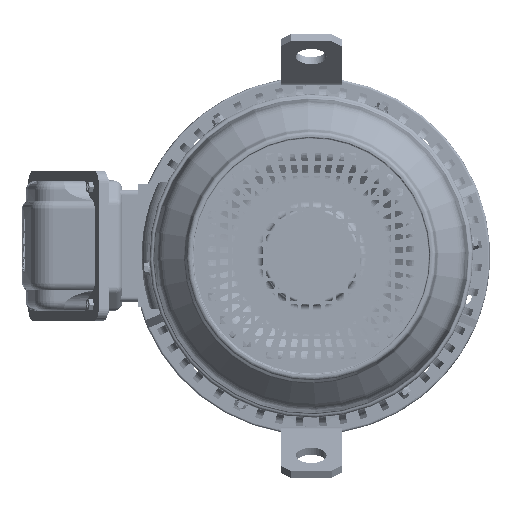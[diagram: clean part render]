
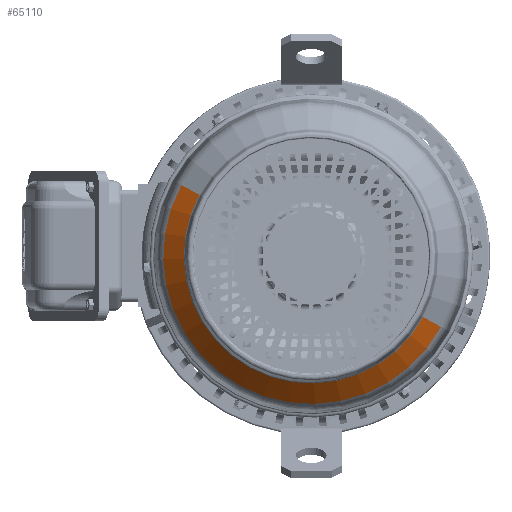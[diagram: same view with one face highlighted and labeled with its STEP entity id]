
A CAD part, front view. The second image highlights one B-rep face of the part: STEP entity #65110.
In plain terms, the highlighted conical face has half-angle 44.148 degrees and reference radius 124.85 mm.
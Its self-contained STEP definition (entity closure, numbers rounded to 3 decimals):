
#65034=CARTESIAN_POINT('Vertex',(127.076,-291.569,-69.422)) ;
#65041=CARTESIAN_POINT('Vertex',(-127.076,-291.569,69.422)) ;
#65056=CARTESIAN_POINT('Axis2P3D Location',(0.,-291.569,0.)) ;
#65068=CARTESIAN_POINT('Axis2P3D Location',(0.,-312.124,0.)) ;
#65073=CARTESIAN_POINT('Line Origine',(118.321,-301.847,-64.639)) ;
#65077=CARTESIAN_POINT('Vertex',(109.567,-312.124,-59.857)) ;
#65080=CARTESIAN_POINT('Line Origine',(-118.321,-301.847,64.639)) ;
#65084=CARTESIAN_POINT('Vertex',(-109.567,-312.124,59.857)) ;
#65099=CARTESIAN_POINT('Axis2P3D Location',(0.,-312.124,0.)) ;
#65057=DIRECTION('Axis2P3D Direction',(0.,1.,-0.)) ;
#65069=DIRECTION('Axis2P3D Direction',(0.,1.,-0.)) ;
#65070=DIRECTION('Axis2P3D XDirection',(0.878,0.,-0.479)) ;
#65074=DIRECTION('Vector Direction',(0.611,0.718,-0.334)) ;
#65081=DIRECTION('Vector Direction',(-0.611,0.718,0.334)) ;
#65100=DIRECTION('Axis2P3D Direction',(0.,1.,-0.)) ;
#65058=AXIS2_PLACEMENT_3D('Circle Axis2P3D',#65056,#65057,$) ;
#65071=AXIS2_PLACEMENT_3D('Cone Axis2P3D',#65068,#65069,#65070) ;
#65101=AXIS2_PLACEMENT_3D('Circle Axis2P3D',#65099,#65100,$) ;
#65105=ORIENTED_EDGE('',*,*,#65086,.T.) ;
#65106=ORIENTED_EDGE('',*,*,#65060,.F.) ;
#65107=ORIENTED_EDGE('',*,*,#65079,.F.) ;
#65108=ORIENTED_EDGE('',*,*,#65103,.T.) ;
#65075=VECTOR('Line Direction',#65074,1.) ;
#65082=VECTOR('Line Direction',#65081,1.) ;
#65110=ADVANCED_FACE('31407C369.1',(#65109),#65072,.T.) ;
#65059=CIRCLE('generated circle',#65058,144.803) ;
#65102=CIRCLE('generated circle',#65101,124.851) ;
#65072=CONICAL_SURFACE('Cone',#65071,124.851,0.771) ;
#65060=EDGE_CURVE('',#65035,#65042,#65059,.T.) ;
#65079=EDGE_CURVE('',#65078,#65035,#65076,.T.) ;
#65086=EDGE_CURVE('',#65085,#65042,#65083,.T.) ;
#65103=EDGE_CURVE('',#65078,#65085,#65102,.T.) ;
#65104=EDGE_LOOP('',(#65105,#65106,#65107,#65108)) ;
#65109=FACE_OUTER_BOUND('',#65104,.T.) ;
#65076=LINE('Line',#65073,#65075) ;
#65083=LINE('Line',#65080,#65082) ;
#65035=VERTEX_POINT('',#65034) ;
#65042=VERTEX_POINT('',#65041) ;
#65078=VERTEX_POINT('',#65077) ;
#65085=VERTEX_POINT('',#65084) ;
